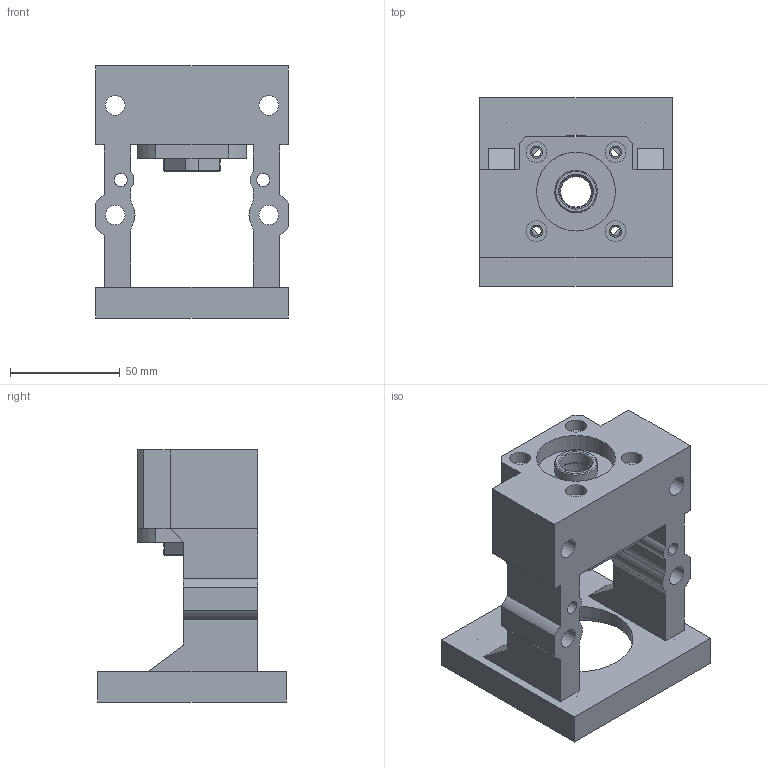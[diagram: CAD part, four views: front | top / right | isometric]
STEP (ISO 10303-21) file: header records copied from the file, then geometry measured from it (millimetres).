
FILE_DESCRIPTION((''),'2;1');
FILE_NAME('M80E-AK15-C_ASM','2019-08-17T',('ASUS'),(''),'PRO/ENGINEER BY PARAMETRIC TECHNOLOGY CORPORATION, 2010280','PRO/ENGINEER BY PARAMETRIC TECHNOLOGY CORPORATION, 2010280','');
FILE_SCHEMA(('CONFIG_CONTROL_DESIGN'));
Length unit declared in the file: millimetre
Products named in the file (8): MBCA15-E-02; MBCA15-E-04; 2; 1; MBCA15-E-03_ASM; _MBCA15-E; MBCA15-E_ASM; M80E-AK15-C_ASM
Assembly tree (8 placements, depth 4):
  M80E-AK15-C_ASM
    MBCA15-E_ASM
      MBCA15-E-02  x2
      MBCA15-E-04
      MBCA15-E-03_ASM
        2
        1
      _MBCA15-E
Bounding box: 88 x 86 x 115 mm (x, y, z)
Volume: 256569.1 mm3; surface area: 69353 mm2
Topology: 6 solids, 6 shells, 273 faces, 700 edges, 448 vertices
Faces by surface type: cylinder 119, plane 92, cone 54, bspline 8
Entity records: 8973 total; most frequent: CARTESIAN_POINT 2250, DIRECTION 1431, ORIENTED_EDGE 1328, EDGE_CURVE 664, AXIS2_PLACEMENT_3D 559, VERTEX_POINT 432, EDGE_LOOP 326, VECTOR 313
